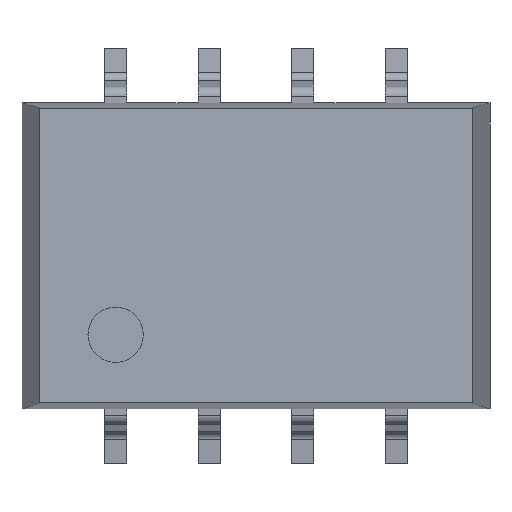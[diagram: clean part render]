
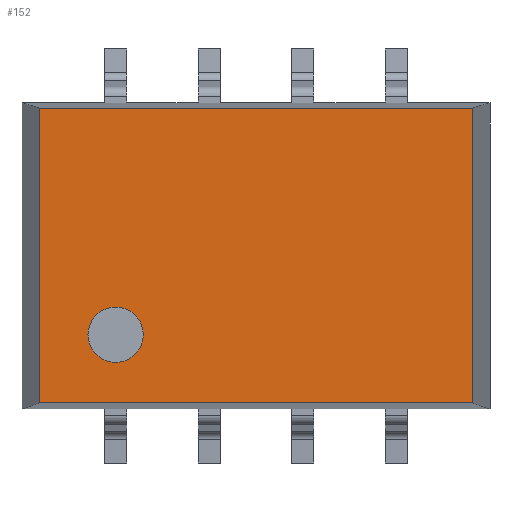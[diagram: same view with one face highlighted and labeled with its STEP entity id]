
A CAD part, top view. The second image highlights one B-rep face of the part: STEP entity #152.
In plain terms, the highlighted planar face has unit normal (0, 0, 1).
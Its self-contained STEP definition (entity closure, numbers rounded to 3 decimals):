
#129 = CARTESIAN_POINT ( 'NONE',  ( -3.81, -2.15, 5.8 ) ) ;
#152 = ADVANCED_FACE ( 'NONE', ( #3903, #1282 ), #2682, .T. ) ;
#288 = CARTESIAN_POINT ( 'NONE',  ( -6.35, -4., 5.8 ) ) ;
#517 = DIRECTION ( 'NONE',  ( -1., 0., 0. ) ) ;
#536 = CIRCLE ( 'NONE', #4889, 0.75 ) ;
#710 = LINE ( 'NONE', #288, #4767 ) ;
#877 = ORIENTED_EDGE ( 'NONE', *, *, #2165, .F. ) ;
#892 = CARTESIAN_POINT ( 'NONE',  ( 5.88, -4., 5.8 ) ) ;
#1114 = ORIENTED_EDGE ( 'NONE', *, *, #1360, .T. ) ;
#1146 = VECTOR ( 'NONE', #5073, 1000. ) ;
#1160 = CARTESIAN_POINT ( 'NONE',  ( 5.88, -4.15, 5.8 ) ) ;
#1251 = VECTOR ( 'NONE', #2265, 1000. ) ;
#1282 = FACE_OUTER_BOUND ( 'NONE', #2118, .T. ) ;
#1360 = EDGE_CURVE ( 'NONE', #2752, #2545, #536, .T. ) ;
#1482 = DIRECTION ( 'NONE',  ( -1., 0., 0. ) ) ;
#1562 = DIRECTION ( 'NONE',  ( 0., -1., 0. ) ) ;
#1634 = CARTESIAN_POINT ( 'NONE',  ( -3.81, -2.15, 5.8 ) ) ;
#1680 = CARTESIAN_POINT ( 'NONE',  ( -5.88, 4., 5.8 ) ) ;
#1948 = EDGE_CURVE ( 'NONE', #4382, #4497, #3038, .T. ) ;
#1949 = CARTESIAN_POINT ( 'NONE',  ( -5.88, -4., 5.8 ) ) ;
#2032 = DIRECTION ( 'NONE',  ( -1., 0., 0. ) ) ;
#2047 = EDGE_LOOP ( 'NONE', ( #3790, #1114 ) ) ;
#2118 = EDGE_LOOP ( 'NONE', ( #3257, #877, #4617, #4183 ) ) ;
#2165 = EDGE_CURVE ( 'NONE', #3317, #3987, #4257, .T. ) ;
#2260 = DIRECTION ( 'NONE',  ( 0., -1., 0. ) ) ;
#2265 = DIRECTION ( 'NONE',  ( 0., 1., 0. ) ) ;
#2270 = DIRECTION ( 'NONE',  ( 0., 0., 1. ) ) ;
#2276 = CARTESIAN_POINT ( 'NONE',  ( 0., 0., 5.8 ) ) ;
#2347 = CARTESIAN_POINT ( 'NONE',  ( 6.35, 4., 5.8 ) ) ;
#2545 = VERTEX_POINT ( 'NONE', #3299 ) ;
#2588 = AXIS2_PLACEMENT_3D ( 'NONE', #129, #2880, #517 ) ;
#2682 = PLANE ( 'NONE',  #3369 ) ;
#2752 = VERTEX_POINT ( 'NONE', #4921 ) ;
#2835 = EDGE_CURVE ( 'NONE', #4497, #3317, #710, .T. ) ;
#2880 = DIRECTION ( 'NONE',  ( 0., 0., -1. ) ) ;
#2924 = VECTOR ( 'NONE', #1562, 1000. ) ;
#3038 = LINE ( 'NONE', #1160, #2924 ) ;
#3257 = ORIENTED_EDGE ( 'NONE', *, *, #3295, .F. ) ;
#3295 = EDGE_CURVE ( 'NONE', #3987, #4382, #4165, .T. ) ;
#3299 = CARTESIAN_POINT ( 'NONE',  ( -4.56, -2.15, 5.8 ) ) ;
#3317 = VERTEX_POINT ( 'NONE', #1949 ) ;
#3369 = AXIS2_PLACEMENT_3D ( 'NONE', #2276, #2270, #2260 ) ;
#3414 = CARTESIAN_POINT ( 'NONE',  ( -5.88, 4.15, 5.8 ) ) ;
#3790 = ORIENTED_EDGE ( 'NONE', *, *, #4566, .T. ) ;
#3903 = FACE_BOUND ( 'NONE', #2047, .T. ) ;
#3987 = VERTEX_POINT ( 'NONE', #1680 ) ;
#4165 = LINE ( 'NONE', #2347, #1146 ) ;
#4183 = ORIENTED_EDGE ( 'NONE', *, *, #1948, .F. ) ;
#4257 = LINE ( 'NONE', #3414, #1251 ) ;
#4291 = CARTESIAN_POINT ( 'NONE',  ( 5.88, 4., 5.8 ) ) ;
#4368 = DIRECTION ( 'NONE',  ( 0., 0., -1. ) ) ;
#4382 = VERTEX_POINT ( 'NONE', #4291 ) ;
#4497 = VERTEX_POINT ( 'NONE', #892 ) ;
#4533 = CIRCLE ( 'NONE', #2588, 0.75 ) ;
#4566 = EDGE_CURVE ( 'NONE', #2545, #2752, #4533, .T. ) ;
#4617 = ORIENTED_EDGE ( 'NONE', *, *, #2835, .F. ) ;
#4767 = VECTOR ( 'NONE', #1482, 1000. ) ;
#4889 = AXIS2_PLACEMENT_3D ( 'NONE', #1634, #4368, #2032 ) ;
#4921 = CARTESIAN_POINT ( 'NONE',  ( -3.06, -2.15, 5.8 ) ) ;
#5073 = DIRECTION ( 'NONE',  ( 1., 0., 0. ) ) ;
